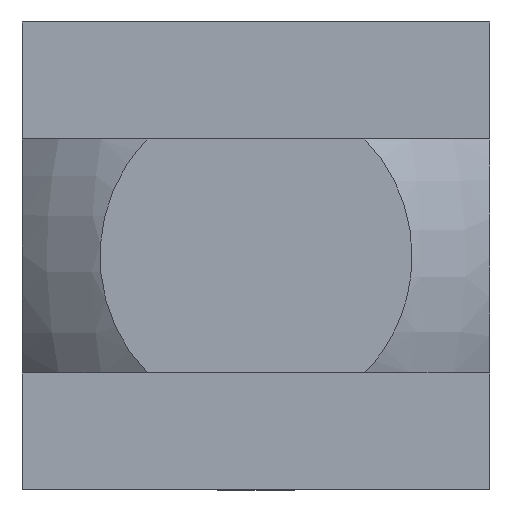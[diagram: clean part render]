
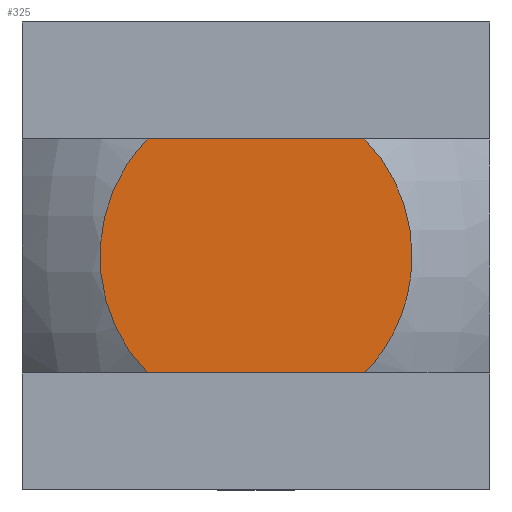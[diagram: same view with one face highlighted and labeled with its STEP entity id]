
A CAD part, left-side view. The second image highlights one B-rep face of the part: STEP entity #325.
In plain terms, the highlighted planar face has unit normal (-1, 0, 0).
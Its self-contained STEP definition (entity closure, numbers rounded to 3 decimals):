
#16 = CARTESIAN_POINT ( 'NONE',  ( -10.5, -2.303, 1.416 ) ) ;
#19 = VECTOR ( 'NONE', #20, 1000. ) ;
#20 = DIRECTION ( 'NONE',  ( 0., 1., 0. ) ) ;
#22 = B_SPLINE_CURVE_WITH_KNOTS ( 'NONE', 3,
 ( #44, #43, #42, #16, #30, #34, #33, #32, #31, #29, #28, #27, #26, #25, #24, #23 ),
 .UNSPECIFIED., .F., .F.,
 ( 4, 2, 2, 2, 2, 2, 2, 4 ),
 ( 0.015, 0.015, 0.016, 0.017, 0.018, 0.018, 0.019, 0.019 ),
 .UNSPECIFIED. ) ;
#23 = CARTESIAN_POINT ( 'NONE',  ( -10.5, -1.856, -2. ) ) ;
#24 = CARTESIAN_POINT ( 'NONE',  ( -10.5, -1.985, -1.869 ) ) ;
#25 = CARTESIAN_POINT ( 'NONE',  ( -10.5, -2.102, -1.723 ) ) ;
#26 = CARTESIAN_POINT ( 'NONE',  ( -10.5, -2.303, -1.415 ) ) ;
#27 = CARTESIAN_POINT ( 'NONE',  ( -10.5, -2.388, -1.253 ) ) ;
#28 = CARTESIAN_POINT ( 'NONE',  ( -10.5, -2.526, -0.91 ) ) ;
#29 = CARTESIAN_POINT ( 'NONE',  ( -10.5, -2.579, -0.731 ) ) ;
#30 = CARTESIAN_POINT ( 'NONE',  ( -10.5, -2.389, 1.251 ) ) ;
#31 = CARTESIAN_POINT ( 'NONE',  ( -10.5, -2.649, -0.371 ) ) ;
#32 = CARTESIAN_POINT ( 'NONE',  ( -10.5, -2.667, -0.188 ) ) ;
#33 = CARTESIAN_POINT ( 'NONE',  ( -10.5, -2.667, 0.37 ) ) ;
#34 = CARTESIAN_POINT ( 'NONE',  ( -10.5, -2.595, 0.74 ) ) ;
#40 = CARTESIAN_POINT ( 'NONE',  ( -10.5, 2.102, -1.723 ) ) ;
#41 = CARTESIAN_POINT ( 'NONE',  ( -10.5, 1.986, -1.868 ) ) ;
#42 = CARTESIAN_POINT ( 'NONE',  ( -10.5, -2.1, 1.726 ) ) ;
#43 = CARTESIAN_POINT ( 'NONE',  ( -10.5, -1.985, 1.869 ) ) ;
#44 = CARTESIAN_POINT ( 'NONE',  ( -10.5, -1.856, 2. ) ) ;
#45 = CARTESIAN_POINT ( 'NONE',  ( -10.5, -4., 2. ) ) ;
#46 = LINE ( 'NONE', #45, #19 ) ;
#48 = CARTESIAN_POINT ( 'NONE',  ( -10.5, -1.856, 2. ) ) ;
#49 = VECTOR ( 'NONE', #58, 1000. ) ;
#50 = CARTESIAN_POINT ( 'NONE',  ( -10.5, -4., -2. ) ) ;
#51 = LINE ( 'NONE', #50, #49 ) ;
#52 = CARTESIAN_POINT ( 'NONE',  ( -10.5, 1.856, 2. ) ) ;
#53 = CARTESIAN_POINT ( 'NONE',  ( -10.5, 2.113, 1.739 ) ) ;
#54 = CARTESIAN_POINT ( 'NONE',  ( -10.5, 2.32, 1.421 ) ) ;
#55 = CARTESIAN_POINT ( 'NONE',  ( -10.5, 2.526, 0.911 ) ) ;
#56 = CARTESIAN_POINT ( 'NONE',  ( -10.5, 1.856, -2. ) ) ;
#57 = CARTESIAN_POINT ( 'NONE',  ( -10.5, -1.856, -2. ) ) ;
#58 = DIRECTION ( 'NONE',  ( 0., 1., 0. ) ) ;
#59 = CARTESIAN_POINT ( 'NONE',  ( -10.5, 2.579, 0.732 ) ) ;
#60 = CARTESIAN_POINT ( 'NONE',  ( -10.5, 2.649, 0.369 ) ) ;
#61 = CARTESIAN_POINT ( 'NONE',  ( -10.5, 2.667, 0.186 ) ) ;
#62 = CARTESIAN_POINT ( 'NONE',  ( -10.5, 2.667, -0.182 ) ) ;
#63 = B_SPLINE_CURVE_WITH_KNOTS ( 'NONE', 3,
 ( #56, #41, #40, #70, #69, #67, #66, #65, #62, #61, #60, #59, #55, #54, #53, #52 ),
 .UNSPECIFIED., .F., .F.,
 ( 4, 2, 2, 2, 2, 2, 2, 4 ),
 ( 0.006, 0.007, 0.007, 0.008, 0.009, 0.009, 0.01, 0.011 ),
 .UNSPECIFIED. ) ;
#64 = CARTESIAN_POINT ( 'NONE',  ( -10.5, 1.856, -2. ) ) ;
#65 = CARTESIAN_POINT ( 'NONE',  ( -10.5, 2.649, -0.369 ) ) ;
#66 = CARTESIAN_POINT ( 'NONE',  ( -10.5, 2.579, -0.73 ) ) ;
#67 = CARTESIAN_POINT ( 'NONE',  ( -10.5, 2.527, -0.907 ) ) ;
#68 = CARTESIAN_POINT ( 'NONE',  ( -10.5, 1.856, 2. ) ) ;
#69 = CARTESIAN_POINT ( 'NONE',  ( -10.5, 2.389, -1.25 ) ) ;
#70 = CARTESIAN_POINT ( 'NONE',  ( -10.5, 2.303, -1.415 ) ) ;
#325 = ADVANCED_FACE ( 'NONE', ( #803 ), #586, .T. ) ;
#326 = EDGE_LOOP ( 'NONE', ( #327, #342, #345, #348 ) ) ;
#327 = ORIENTED_EDGE ( 'NONE', *, *, #339, .F. ) ;
#339 = EDGE_CURVE ( 'NONE', #340, #341, #63, .T. ) ;
#340 = VERTEX_POINT ( 'NONE', #64 ) ;
#341 = VERTEX_POINT ( 'NONE', #68 ) ;
#342 = ORIENTED_EDGE ( 'NONE', *, *, #343, .F. ) ;
#343 = EDGE_CURVE ( 'NONE', #344, #340, #51, .T. ) ;
#344 = VERTEX_POINT ( 'NONE', #57 ) ;
#345 = ORIENTED_EDGE ( 'NONE', *, *, #346, .F. ) ;
#346 = EDGE_CURVE ( 'NONE', #347, #344, #22, .T. ) ;
#347 = VERTEX_POINT ( 'NONE', #48 ) ;
#348 = ORIENTED_EDGE ( 'NONE', *, *, #349, .T. ) ;
#349 = EDGE_CURVE ( 'NONE', #347, #341, #46, .T. ) ;
#581 = DIRECTION ( 'NONE',  ( 0., 0., 1. ) ) ;
#582 = DIRECTION ( 'NONE',  ( -1., 0., 0. ) ) ;
#584 = CARTESIAN_POINT ( 'NONE',  ( -10.5, 4., -4. ) ) ;
#585 = AXIS2_PLACEMENT_3D ( 'NONE', #584, #582, #581 ) ;
#586 = PLANE ( 'NONE',  #585 ) ;
#803 = FACE_OUTER_BOUND ( 'NONE', #326, .T. ) ;
